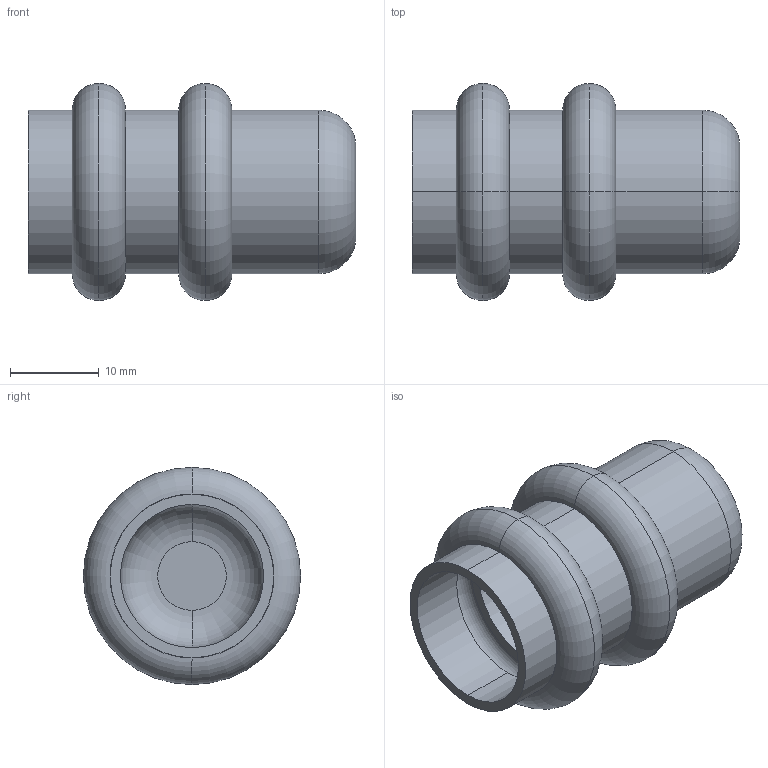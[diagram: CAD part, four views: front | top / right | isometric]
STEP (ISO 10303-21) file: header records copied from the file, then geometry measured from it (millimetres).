
FILE_DESCRIPTION(('starvars output'),'1');
FILE_NAME('cv20240422105055000011891.stp','10:50:55 2024/04/22',('Thomas Industrial Network Germany GmbH'),(' '),'Spatial InterOp 3D',' ',' ');
FILE_SCHEMA(('AUTOMOTIVE_DESIGN { 1 0 10303 214 3 1 1 }'));
Length unit declared in the file: millimetre
Products named in the file (1): 1
Bounding box: 37 x 24.5 x 24.5 mm (x, y, z)
Volume: 3434.6 mm3; surface area: 5515.1 mm2
Topology: 1 solids, 1 shells, 43 faces, 84 edges, 52 vertices
Faces by surface type: torus 20, cylinder 12, plane 11
Entity records: 1502 total; most frequent: DIRECTION 244, CARTESIAN_POINT 180, ORIENTED_EDGE 168, AXIS2_PLACEMENT_3D 116, EDGE_CURVE 84, CIRCLE 72, EDGE_LOOP 52, VERTEX_POINT 52
